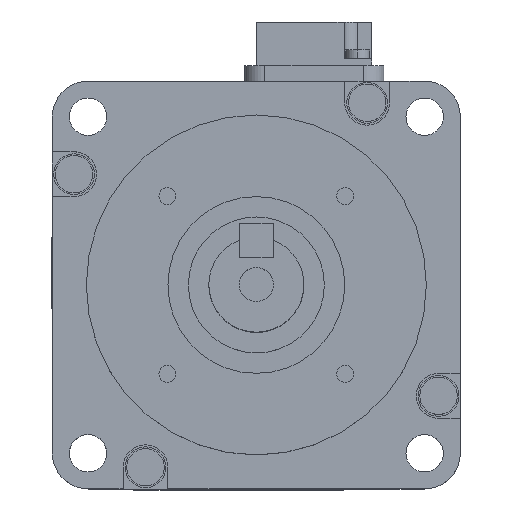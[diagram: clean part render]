
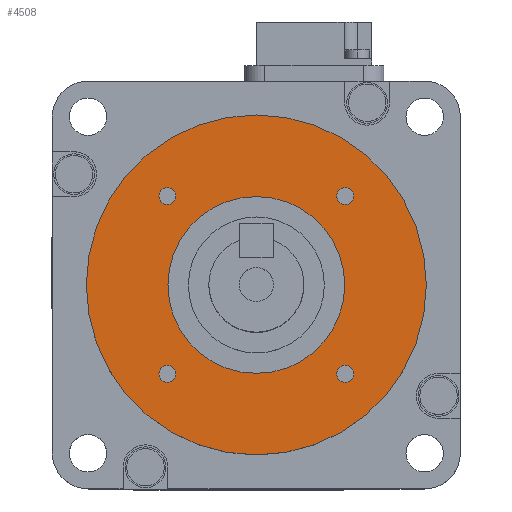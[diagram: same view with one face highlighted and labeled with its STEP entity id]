
A CAD part, top view. The second image highlights one B-rep face of the part: STEP entity #4508.
In plain terms, the highlighted planar face has unit normal (0, 0, 1).
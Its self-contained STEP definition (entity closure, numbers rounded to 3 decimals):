
#3218 = VERTEX_POINT ( 'NONE', #9844 ) ;
#3220 = EDGE_CURVE ( 'NONE', #3218, #3221, #9842, .T. ) ;
#3221 = VERTEX_POINT ( 'NONE', #9843 ) ;
#3248 = VERTEX_POINT ( 'NONE', #9901 ) ;
#3259 = VERTEX_POINT ( 'NONE', #9944 ) ;
#3288 = VERTEX_POINT ( 'NONE', #10013 ) ;
#3290 = EDGE_CURVE ( 'NONE', #3288, #3291, #10012, .T. ) ;
#3291 = VERTEX_POINT ( 'NONE', #10007 ) ;
#3321 = EDGE_CURVE ( 'NONE', #3248, #3322, #10077, .T. ) ;
#3322 = VERTEX_POINT ( 'NONE', #10072 ) ;
#3341 = VERTEX_POINT ( 'NONE', #10100 ) ;
#3343 = EDGE_CURVE ( 'NONE', #3341, #3259, #10099, .T. ) ;
#3502 = EDGE_CURVE ( 'NONE', #3503, #3504, #10434, .T. ) ;
#3503 = VERTEX_POINT ( 'NONE', #10430 ) ;
#3504 = VERTEX_POINT ( 'NONE', #10429 ) ;
#3596 = EDGE_CURVE ( 'NONE', #3597, #3598, #10620, .T. ) ;
#3597 = VERTEX_POINT ( 'NONE', #10616 ) ;
#3598 = VERTEX_POINT ( 'NONE', #10615 ) ;
#4495 = ORIENTED_EDGE ( 'NONE', *, *, #3220, .F. ) ;
#4496 = ORIENTED_EDGE ( 'NONE', *, *, #4497, .F. ) ;
#4497 = EDGE_CURVE ( 'NONE', #3259, #3341, #12230, .T. ) ;
#4498 = ORIENTED_EDGE ( 'NONE', *, *, #3343, .F. ) ;
#4499 = EDGE_LOOP ( 'NONE', ( #4500, #4502 ) ) ;
#4500 = ORIENTED_EDGE ( 'NONE', *, *, #4501, .T. ) ;
#4501 = EDGE_CURVE ( 'NONE', #3504, #3503, #12225, .T. ) ;
#4502 = ORIENTED_EDGE ( 'NONE', *, *, #3502, .T. ) ;
#4503 = EDGE_LOOP ( 'NONE', ( #4504, #4505 ) ) ;
#4504 = ORIENTED_EDGE ( 'NONE', *, *, #3596, .F. ) ;
#4505 = ORIENTED_EDGE ( 'NONE', *, *, #4506, .F. ) ;
#4506 = EDGE_CURVE ( 'NONE', #3598, #3597, #12220, .T. ) ;
#4508 = ADVANCED_FACE ( 'NONE', ( #12215, #12214, #12213, #12212, #12211, #12210 ), #12209, .T. ) ;
#4509 = EDGE_LOOP ( 'NONE', ( #4510, #4512 ) ) ;
#4510 = ORIENTED_EDGE ( 'NONE', *, *, #4511, .F. ) ;
#4511 = EDGE_CURVE ( 'NONE', #3322, #3248, #12267, .T. ) ;
#4512 = ORIENTED_EDGE ( 'NONE', *, *, #3321, .F. ) ;
#4513 = EDGE_LOOP ( 'NONE', ( #4514, #4516 ) ) ;
#4514 = ORIENTED_EDGE ( 'NONE', *, *, #4515, .F. ) ;
#4515 = EDGE_CURVE ( 'NONE', #3291, #3288, #12262, .T. ) ;
#4516 = ORIENTED_EDGE ( 'NONE', *, *, #3290, .F. ) ;
#4517 = EDGE_LOOP ( 'NONE', ( #4518, #4495 ) ) ;
#4518 = ORIENTED_EDGE ( 'NONE', *, *, #4519, .F. ) ;
#4519 = EDGE_CURVE ( 'NONE', #3221, #3218, #12257, .T. ) ;
#4520 = EDGE_LOOP ( 'NONE', ( #4496, #4498 ) ) ;
#9838 = DIRECTION ( 'NONE',  ( 0., 1., 0. ) ) ;
#9839 = DIRECTION ( 'NONE',  ( 0., 0., 1. ) ) ;
#9840 = CARTESIAN_POINT ( 'NONE',  ( -13.081, 13.081, 3. ) ) ;
#9841 = AXIS2_PLACEMENT_3D ( 'NONE', #9840, #9839, #9838 ) ;
#9842 = CIRCLE ( 'NONE', #9841, 1.25 ) ;
#9843 = CARTESIAN_POINT ( 'NONE',  ( -11.831, 13.081, 3. ) ) ;
#9844 = CARTESIAN_POINT ( 'NONE',  ( -14.331, 13.081, 3. ) ) ;
#9901 = CARTESIAN_POINT ( 'NONE',  ( 11.831, -13.081, 3. ) ) ;
#9944 = CARTESIAN_POINT ( 'NONE',  ( 14.331, 13.081, 3. ) ) ;
#10007 = CARTESIAN_POINT ( 'NONE',  ( -11.831, -13.081, 3. ) ) ;
#10008 = DIRECTION ( 'NONE',  ( -1., 0., 0. ) ) ;
#10009 = DIRECTION ( 'NONE',  ( 0., 0., 1. ) ) ;
#10010 = CARTESIAN_POINT ( 'NONE',  ( -13.081, -13.081, 3. ) ) ;
#10011 = AXIS2_PLACEMENT_3D ( 'NONE', #10010, #10009, #10008 ) ;
#10012 = CIRCLE ( 'NONE', #10011, 1.25 ) ;
#10013 = CARTESIAN_POINT ( 'NONE',  ( -14.331, -13.081, 3. ) ) ;
#10072 = CARTESIAN_POINT ( 'NONE',  ( 14.331, -13.081, 3. ) ) ;
#10073 = DIRECTION ( 'NONE',  ( 0., -1., 0. ) ) ;
#10074 = DIRECTION ( 'NONE',  ( 0., 0., 1. ) ) ;
#10075 = CARTESIAN_POINT ( 'NONE',  ( 13.081, -13.081, 3. ) ) ;
#10076 = AXIS2_PLACEMENT_3D ( 'NONE', #10075, #10074, #10073 ) ;
#10077 = CIRCLE ( 'NONE', #10076, 1.25 ) ;
#10095 = DIRECTION ( 'NONE',  ( 1., 0., 0. ) ) ;
#10096 = DIRECTION ( 'NONE',  ( 0., 0., 1. ) ) ;
#10097 = CARTESIAN_POINT ( 'NONE',  ( 13.081, 13.081, 3. ) ) ;
#10098 = AXIS2_PLACEMENT_3D ( 'NONE', #10097, #10096, #10095 ) ;
#10099 = CIRCLE ( 'NONE', #10098, 1.25 ) ;
#10100 = CARTESIAN_POINT ( 'NONE',  ( 11.831, 13.081, 3. ) ) ;
#10429 = CARTESIAN_POINT ( 'NONE',  ( -13., 0., 3. ) ) ;
#10430 = CARTESIAN_POINT ( 'NONE',  ( 13., 0., 3. ) ) ;
#10431 = DIRECTION ( 'NONE',  ( -1., 0., 0. ) ) ;
#10432 = DIRECTION ( 'NONE',  ( 0., 0., -1. ) ) ;
#10433 = AXIS2_PLACEMENT_3D ( 'NONE', #10439, #10432, #10431 ) ;
#10434 = CIRCLE ( 'NONE', #10433, 13. ) ;
#10439 = CARTESIAN_POINT ( 'NONE',  ( 0., 0., 3. ) ) ;
#10615 = CARTESIAN_POINT ( 'NONE',  ( 25., 0., 3. ) ) ;
#10616 = CARTESIAN_POINT ( 'NONE',  ( -25., 0., 3. ) ) ;
#10617 = DIRECTION ( 'NONE',  ( -1., 0., 0. ) ) ;
#10618 = DIRECTION ( 'NONE',  ( 0., 0., -1. ) ) ;
#10619 = AXIS2_PLACEMENT_3D ( 'NONE', #10626, #10618, #10617 ) ;
#10620 = CIRCLE ( 'NONE', #10619, 25. ) ;
#10626 = CARTESIAN_POINT ( 'NONE',  ( 0., 0., 3. ) ) ;
#12205 = DIRECTION ( 'NONE',  ( 1., 0., 0. ) ) ;
#12206 = DIRECTION ( 'NONE',  ( 0., 0., 1. ) ) ;
#12207 = CARTESIAN_POINT ( 'NONE',  ( 0., 25., 3. ) ) ;
#12208 = AXIS2_PLACEMENT_3D ( 'NONE', #12207, #12206, #12205 ) ;
#12209 = PLANE ( 'NONE',  #12208 ) ;
#12210 = FACE_OUTER_BOUND ( 'NONE', #4503, .T. ) ;
#12211 = FACE_BOUND ( 'NONE', #4499, .T. ) ;
#12212 = FACE_BOUND ( 'NONE', #4520, .T. ) ;
#12213 = FACE_BOUND ( 'NONE', #4517, .T. ) ;
#12214 = FACE_BOUND ( 'NONE', #4513, .T. ) ;
#12215 = FACE_BOUND ( 'NONE', #4509, .T. ) ;
#12216 = DIRECTION ( 'NONE',  ( -1., 0., 0. ) ) ;
#12217 = DIRECTION ( 'NONE',  ( 0., 0., -1. ) ) ;
#12218 = CARTESIAN_POINT ( 'NONE',  ( 0., 0., 3. ) ) ;
#12219 = AXIS2_PLACEMENT_3D ( 'NONE', #12218, #12217, #12216 ) ;
#12220 = CIRCLE ( 'NONE', #12219, 25. ) ;
#12221 = DIRECTION ( 'NONE',  ( -1., 0., 0. ) ) ;
#12222 = DIRECTION ( 'NONE',  ( 0., 0., -1. ) ) ;
#12223 = CARTESIAN_POINT ( 'NONE',  ( 0., 0., 3. ) ) ;
#12224 = AXIS2_PLACEMENT_3D ( 'NONE', #12223, #12222, #12221 ) ;
#12225 = CIRCLE ( 'NONE', #12224, 13. ) ;
#12226 = DIRECTION ( 'NONE',  ( 1., 0., 0. ) ) ;
#12227 = DIRECTION ( 'NONE',  ( 0., 0., 1. ) ) ;
#12228 = CARTESIAN_POINT ( 'NONE',  ( 13.081, 13.081, 3. ) ) ;
#12229 = AXIS2_PLACEMENT_3D ( 'NONE', #12228, #12227, #12226 ) ;
#12230 = CIRCLE ( 'NONE', #12229, 1.25 ) ;
#12253 = DIRECTION ( 'NONE',  ( 0., 1., 0. ) ) ;
#12254 = DIRECTION ( 'NONE',  ( 0., 0., 1. ) ) ;
#12255 = CARTESIAN_POINT ( 'NONE',  ( -13.081, 13.081, 3. ) ) ;
#12256 = AXIS2_PLACEMENT_3D ( 'NONE', #12255, #12254, #12253 ) ;
#12257 = CIRCLE ( 'NONE', #12256, 1.25 ) ;
#12258 = DIRECTION ( 'NONE',  ( -1., 0., 0. ) ) ;
#12259 = DIRECTION ( 'NONE',  ( 0., 0., 1. ) ) ;
#12260 = CARTESIAN_POINT ( 'NONE',  ( -13.081, -13.081, 3. ) ) ;
#12261 = AXIS2_PLACEMENT_3D ( 'NONE', #12260, #12259, #12258 ) ;
#12262 = CIRCLE ( 'NONE', #12261, 1.25 ) ;
#12263 = DIRECTION ( 'NONE',  ( 0., -1., 0. ) ) ;
#12264 = DIRECTION ( 'NONE',  ( 0., 0., 1. ) ) ;
#12265 = CARTESIAN_POINT ( 'NONE',  ( 13.081, -13.081, 3. ) ) ;
#12266 = AXIS2_PLACEMENT_3D ( 'NONE', #12265, #12264, #12263 ) ;
#12267 = CIRCLE ( 'NONE', #12266, 1.25 ) ;
